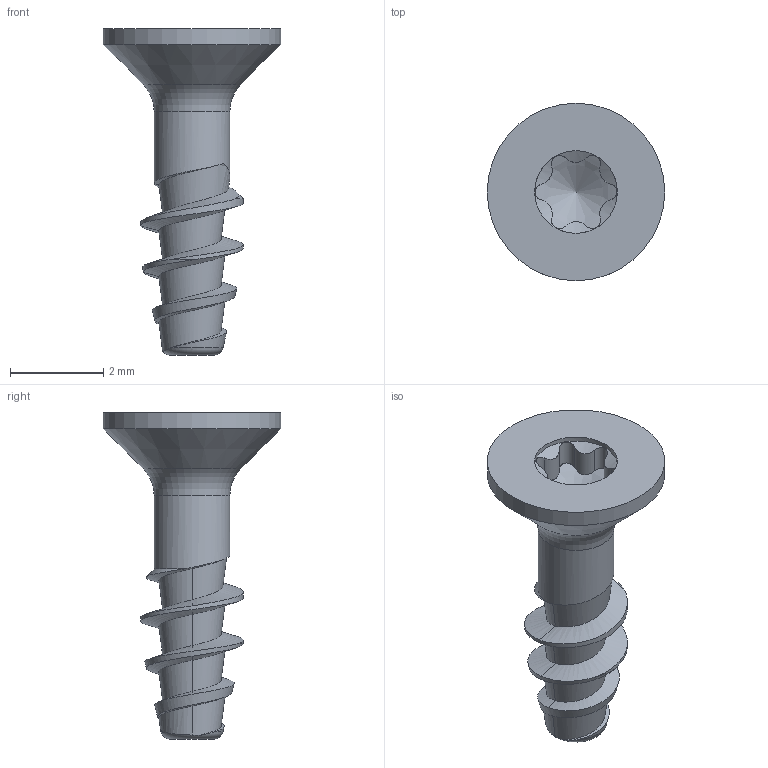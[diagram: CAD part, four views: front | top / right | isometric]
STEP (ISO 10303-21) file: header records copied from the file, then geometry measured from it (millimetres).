
FILE_DESCRIPTION(/* description */ (''),/* implementation_level */ '2;1');
FILE_NAME(/* name */ 'KN1041-STS-22x7-T6.step',/* time_stamp */ '2017-10-17T14:09:01+02:00',/* author */ (''),/* organization */ (''),/* preprocessor_version */ 'ST-DEVELOPER v16',/* originating_system */ 'SIEMENS PLM Software NX 10.0',/* authorisation */ '');
FILE_SCHEMA (('AUTOMOTIVE_DESIGN { 1 0 10303 214 3 1 1 1 }'));
Length unit declared in the file: millimetre
Products named in the file (1): KN1041-STS-22x7-T6
Bounding box: 3.8 x 3.8 x 7 mm (x, y, z)
Volume: 19.3 mm3; surface area: 69.2 mm2
Topology: 1 solids, 1 shells, 39 faces, 101 edges, 64 vertices
Faces by surface type: cylinder 16, bspline 14, cone 5, torus 2, plane 2
Full cylindrical faces by diameter (mm): 1.62 x1, 1.77 x1, 3.8 x1
Entity records: 2402 total; most frequent: CARTESIAN_POINT 1636, ORIENTED_EDGE 174, DIRECTION 97, EDGE_CURVE 87, VERTEX_POINT 59, B_SPLINE_CURVE_WITH_KNOTS 53, EDGE_LOOP 47, ADVANCED_FACE 39
